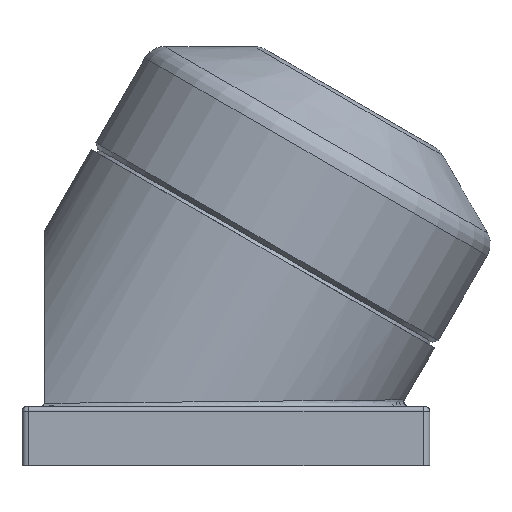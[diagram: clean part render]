
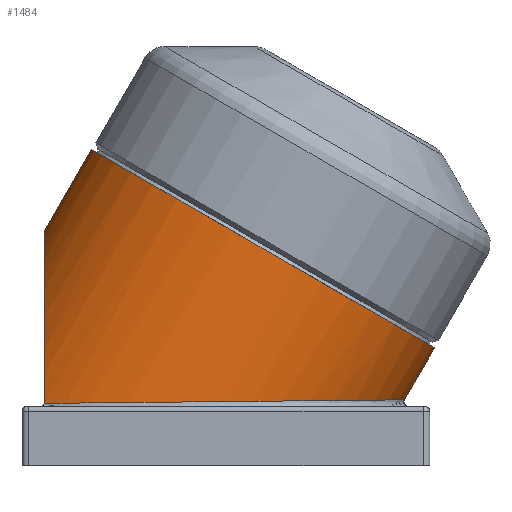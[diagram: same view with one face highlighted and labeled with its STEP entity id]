
A CAD part, left-side view. The second image highlights one B-rep face of the part: STEP entity #1484.
In plain terms, the highlighted cylindrical face has radius 87.5 mm (diameter 175 mm), a full revolution.
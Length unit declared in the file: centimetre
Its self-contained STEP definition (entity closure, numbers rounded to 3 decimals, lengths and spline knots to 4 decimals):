
#63=ELLIPSE('',#1656,10.1619,8.75);
#65=ELLIPSE('',#1661,17.5,8.75);
#73=B_SPLINE_CURVE_WITH_KNOTS('',3,(#2890,#2891,#2892,#2893,#2894,#2895),
 .UNSPECIFIED.,.F.,.F.,(4,2,4),(-0.6292,-0.5968,-0.5728),
 .UNSPECIFIED.);
#74=B_SPLINE_CURVE_WITH_KNOTS('',3,(#2898,#2899,#2900,#2901,#2902,#2903),
 .UNSPECIFIED.,.F.,.F.,(4,2,4),(-0.7786,-0.7546,-0.7223),
 .UNSPECIFIED.);
#75=B_SPLINE_CURVE_WITH_KNOTS('',3,(#2909,#2910,#2911,#2912,#2913,#2914,
#2915,#2916,#2917,#2918,#2919,#2920,#2921,#2922,#2923,#2924,#2925,#2926,
#2927,#2928,#2929,#2930,#2931,#2932,#2933,#2934,#2935,#2936,#2937,#2938,
#2939,#2940,#2941,#2942),.UNSPECIFIED.,.T.,.F.,(4,2,2,2,2,2,2,2,2,2,2,2,
2,2,2,2,4),(0.,0.1591,0.3181,0.4772,0.6363,
0.7954,0.9544,1.1135,1.2726,1.4316,
1.5906,1.7497,1.9088,2.0679,2.2271,
2.3861,2.5451),.UNSPECIFIED.);
#247=FACE_BOUND('',#564,.T.);
#248=FACE_BOUND('',#565,.T.);
#326=CYLINDRICAL_SURFACE('',#1659,8.75);
#404=FACE_OUTER_BOUND('',#563,.T.);
#563=EDGE_LOOP('',(#1202));
#564=EDGE_LOOP('',(#1203,#1204,#1205,#1206));
#565=EDGE_LOOP('',(#1207));
#741=CIRCLE('',#1660,8.75);
#861=VERTEX_POINT('',#2857);
#862=VERTEX_POINT('',#2858);
#865=VERTEX_POINT('',#2889);
#866=VERTEX_POINT('',#2896);
#867=VERTEX_POINT('',#2905);
#868=VERTEX_POINT('',#2908);
#995=EDGE_CURVE('',#861,#862,#63,.T.);
#1000=EDGE_CURVE('',#862,#865,#73,.T.);
#1002=EDGE_CURVE('',#866,#861,#74,.T.);
#1003=EDGE_CURVE('',#867,#867,#741,.T.);
#1004=EDGE_CURVE('',#866,#865,#65,.T.);
#1005=EDGE_CURVE('',#868,#868,#75,.T.);
#1202=ORIENTED_EDGE('',*,*,#1003,.T.);
#1203=ORIENTED_EDGE('',*,*,#995,.F.);
#1204=ORIENTED_EDGE('',*,*,#1002,.F.);
#1205=ORIENTED_EDGE('',*,*,#1004,.T.);
#1206=ORIENTED_EDGE('',*,*,#1000,.F.);
#1207=ORIENTED_EDGE('',*,*,#1005,.T.);
#1484=ADVANCED_FACE('',(#404,#247,#248),#326,.T.);
#1656=AXIS2_PLACEMENT_3D('',#2859,#1990,#1991);
#1659=AXIS2_PLACEMENT_3D('',#2904,#1998,#1999);
#1660=AXIS2_PLACEMENT_3D('',#2906,#2000,#2001);
#1661=AXIS2_PLACEMENT_3D('',#2907,#2002,#2003);
#1990=DIRECTION('center_axis',(0.,-0.01,
-1.));
#1991=DIRECTION('ref_axis',(0.,-1.,0.01));
#1998=DIRECTION('center_axis',(0.,0.5,-0.866));
#1999=DIRECTION('ref_axis',(-1.,0.,0.));
#2000=DIRECTION('center_axis',(0.,0.5,-0.866));
#2001=DIRECTION('ref_axis',(1.,0.,0.));
#2002=DIRECTION('center_axis',(0.,-1.,0.));
#2003=DIRECTION('ref_axis',(0.,0.,
1.));
#2857=CARTESIAN_POINT('',(7.2216,10.3761,2.7435));
#2858=CARTESIAN_POINT('',(-7.2216,10.3761,2.7435));
#2859=CARTESIAN_POINT('Origin',(0.,4.6384,2.8));
#2889=CARTESIAN_POINT('',(-7.207,10.368,2.8));
#2890=CARTESIAN_POINT('Ctrl Pts',(-7.2216,10.3761,2.7435));
#2891=CARTESIAN_POINT('Ctrl Pts',(-7.2198,10.373,2.7542));
#2892=CARTESIAN_POINT('Ctrl Pts',(-7.2174,10.3708,2.765));
#2893=CARTESIAN_POINT('Ctrl Pts',(-7.2123,10.3685,2.784));
#2894=CARTESIAN_POINT('Ctrl Pts',(-7.2098,10.368,2.792));
#2895=CARTESIAN_POINT('Ctrl Pts',(-7.207,10.368,2.8));
#2896=CARTESIAN_POINT('',(7.207,10.368,2.8));
#2898=CARTESIAN_POINT('Ctrl Pts',(7.207,10.368,2.8));
#2899=CARTESIAN_POINT('Ctrl Pts',(7.2098,10.368,2.792));
#2900=CARTESIAN_POINT('Ctrl Pts',(7.2123,10.3685,2.784));
#2901=CARTESIAN_POINT('Ctrl Pts',(7.2174,10.3708,2.765));
#2902=CARTESIAN_POINT('Ctrl Pts',(7.2198,10.373,2.7542));
#2903=CARTESIAN_POINT('Ctrl Pts',(7.2216,10.3761,2.7435));
#2904=CARTESIAN_POINT('Origin',(0.,3.4925,4.7848));
#2905=CARTESIAN_POINT('',(-8.75,0.73,9.5696));
#2906=CARTESIAN_POINT('Origin',(0.,0.73,
9.5696));
#2907=CARTESIAN_POINT('Origin',(0.,10.368,-7.1239));
#2908=CARTESIAN_POINT('',(8.75,2.2112,7.0041));
#2909=CARTESIAN_POINT('Ctrl Pts',(8.7398,2.3655,7.5809));
#2910=CARTESIAN_POINT('Ctrl Pts',(8.7398,2.392,7.535));
#2911=CARTESIAN_POINT('Ctrl Pts',(8.7403,2.4111,7.4807));
#2912=CARTESIAN_POINT('Ctrl Pts',(8.7423,2.4259,7.3691));
#2913=CARTESIAN_POINT('Ctrl Pts',(8.7436,2.4215,7.3118));
#2914=CARTESIAN_POINT('Ctrl Pts',(8.7462,2.3941,7.2093));
#2915=CARTESIAN_POINT('Ctrl Pts',(8.7475,2.3693,7.1575));
#2916=CARTESIAN_POINT('Ctrl Pts',(8.7495,2.3008,7.0681));
#2917=CARTESIAN_POINT('Ctrl Pts',(8.75,2.2571,7.0306));
#2918=CARTESIAN_POINT('Ctrl Pts',(8.75,2.1653,6.9776));
#2919=CARTESIAN_POINT('Ctrl Pts',(8.7495,2.111,6.9585));
#2920=CARTESIAN_POINT('Ctrl Pts',(8.7475,1.9993,6.9439));
#2921=CARTESIAN_POINT('Ctrl Pts',(8.7462,1.942,6.9483));
#2922=CARTESIAN_POINT('Ctrl Pts',(8.7436,1.8396,6.9758));
#2923=CARTESIAN_POINT('Ctrl Pts',(8.7423,1.7877,7.0007));
#2924=CARTESIAN_POINT('Ctrl Pts',(8.7403,1.6984,7.0693));
#2925=CARTESIAN_POINT('Ctrl Pts',(8.7398,1.661,7.113));
#2926=CARTESIAN_POINT('Ctrl Pts',(8.7398,1.608,7.2048));
#2927=CARTESIAN_POINT('Ctrl Pts',(8.7403,1.5889,7.259));
#2928=CARTESIAN_POINT('Ctrl Pts',(8.7423,1.5741,7.3706));
#2929=CARTESIAN_POINT('Ctrl Pts',(8.7436,1.5785,7.428));
#2930=CARTESIAN_POINT('Ctrl Pts',(8.7462,1.6059,7.5304));
#2931=CARTESIAN_POINT('Ctrl Pts',(8.7475,1.6307,7.5823));
#2932=CARTESIAN_POINT('Ctrl Pts',(8.7495,1.6992,7.6717));
#2933=CARTESIAN_POINT('Ctrl Pts',(8.75,1.7429,7.7092));
#2934=CARTESIAN_POINT('Ctrl Pts',(8.75,1.8347,7.7622));
#2935=CARTESIAN_POINT('Ctrl Pts',(8.7495,1.889,7.7813));
#2936=CARTESIAN_POINT('Ctrl Pts',(8.7475,2.0007,7.7959));
#2937=CARTESIAN_POINT('Ctrl Pts',(8.7462,2.0581,7.7915));
#2938=CARTESIAN_POINT('Ctrl Pts',(8.7436,2.1605,7.764));
#2939=CARTESIAN_POINT('Ctrl Pts',(8.7423,2.2123,7.7391));
#2940=CARTESIAN_POINT('Ctrl Pts',(8.7403,2.3016,7.6705));
#2941=CARTESIAN_POINT('Ctrl Pts',(8.7398,2.339,7.6268));
#2942=CARTESIAN_POINT('Ctrl Pts',(8.7398,2.3655,7.5809));
